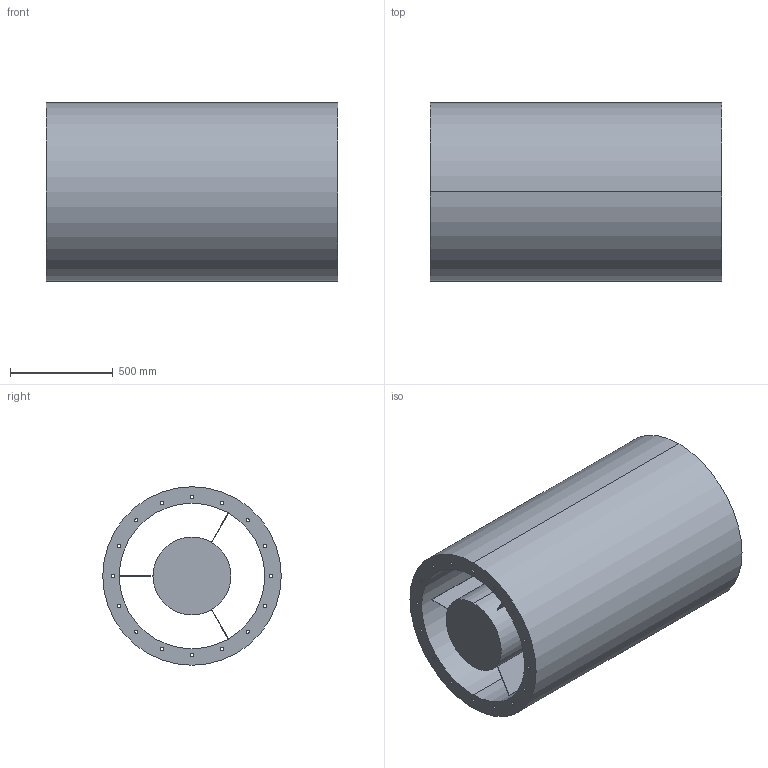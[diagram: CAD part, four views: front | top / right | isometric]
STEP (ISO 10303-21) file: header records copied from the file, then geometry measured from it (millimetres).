
FILE_DESCRIPTION(('STEP AP214'),'1');
FILE_NAME('accessory_5211815100.stp','2017-10-09T11:37:20',('TraceParts'),('TraceParts S.A.'),'Spatial InterOp 3D',' ',' ');
FILE_SCHEMA(('automotive_design'));
Length unit declared in the file: millimetre
Products named in the file (1): accessory_5211815100
Bounding box: 1420 x 870 x 870 mm (x, y, z)
Volume: 424059895.8 mm3; surface area: 11369006.1 mm2
Topology: 1 solids, 1 shells, 56 faces, 155 edges, 103 vertices
Faces by surface type: cylinder 38, plane 16, torus 2
Entity records: 2384 total; most frequent: DIRECTION 362, CARTESIAN_POINT 315, ORIENTED_EDGE 310, EDGE_CURVE 155, AXIS2_PLACEMENT_3D 150, VERTEX_POINT 103, EDGE_LOOP 96, CIRCLE 93
